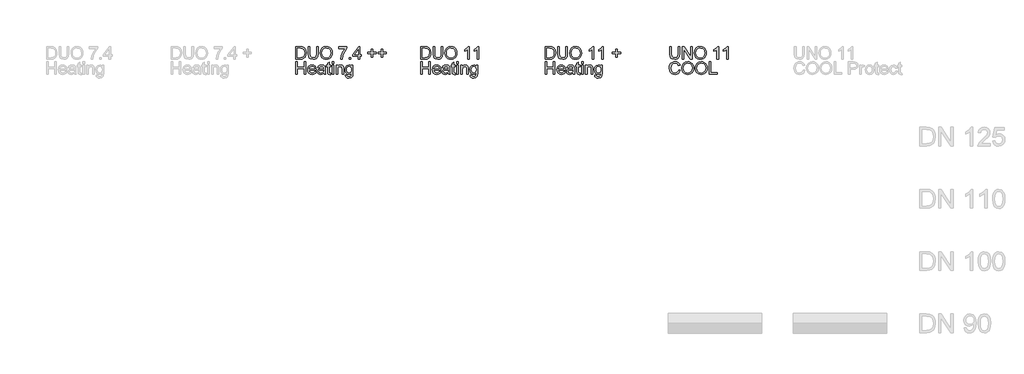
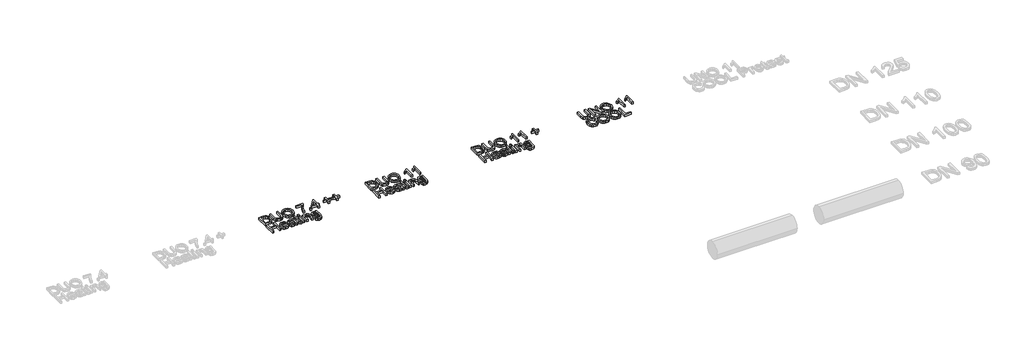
# One storey, part 33 of 44: 4 proxies.
"""IFC4 building model written with IfcOpenShell, lengths in millimetres."""

from ifc_helpers import new_model, si_unit, origin, origin_with_axes, place, context, project, spatial, polyline, outline, extrude, element, save

model = new_model("IFC4")

# Units and contexts
model_context = context("Model", 3, world=origin())
ifc_project = project(units=[si_unit("LENGTHUNIT", "METRE", prefix="MILLI")], contexts=[model_context])

# Site, building, storey
site = spatial("IfcSite", under=ifc_project)
building = spatial("IfcBuilding", under=site)
storey = spatial("IfcBuildingStorey", under=building, Name="REHAU Starting view", Elevation=0.0)

# Proxies
placement = place(None, origin())
element("IfcBuildingElementProxy", 1, Name="100", ObjectType="100", at=placement, inside=storey, context=model_context, shape_type="SweptSolid", body=[
    extrude(outline(polyline([(10010.9874089, 20121.9748178), (10010.9874089, 20222.431128), (10045.6418929, 20222.431128), (10063.5700088, 20220.9841255), (10078.3343395, 20213.7981638), (10090.2291907, 20196.6303374), (10094.1777908, 20172.7425332), (10091.5045149, 20152.4722352), (10084.6373844, 20137.8427946), (10075.4648599, 20128.7315838), (10063.4596442, 20123.6916005), (10047.3096246, 20121.9748178), (10010.9874089, 20121.9748178)]), holes=[polyline([(10023.5444477, 20134.5318566), (10045.7645202, 20134.5318566), (10061.9268025, 20136.3467411), (10071.2464797, 20141.4725636), (10078.8861625, 20153.9437632), (10081.620752, 20172.9387369), (10080.2810484, 20186.6239471), (10076.2619376, 20196.7284393), (10063.2266522, 20207.863001), (10045.4211637, 20209.8740892), (10023.5444477, 20209.8740892), (10023.5444477, 20134.5318566)])]), origin_with_axes(), (0.0, 0.0, 1.0), 20.0),
    extrude(outline(polyline([(10177.3681726, 20222.431128), (10189.9252114, 20222.431128), (10189.9252114, 20164.477451), (10186.5161716, 20140.4547567), (10174.2289129, 20125.9847316), (10163.9650053, 20121.8000739), (10150.9297199, 20120.405188), (10127.9861461, 20125.2612303), (10120.3464634, 20131.2055902), (10115.2574291, 20139.3265853), (10111.4437191, 20164.477451), (10111.4437191, 20222.431128), (10124.0007578, 20222.431128), (10124.0007578, 20164.9189094), (10126.4778299, 20145.7767829), (10134.9881668, 20136.2976902), (10149.7524975, 20132.9622268), (10162.5241341, 20134.6115644), (10171.0160768, 20139.5595772), (10175.7801487, 20149.1980855), (10177.3681726, 20164.9189094), (10177.3681726, 20222.431128)])), origin_with_axes(), (0.0, 0.0, 1.0), 20.0),
    extrude(outline(polyline([(10207.1911397, 20170.8785977), (10210.5388658, 20193.0925389), (10220.5820443, 20209.8986147), (10235.9165921, 20220.4752221), (10255.1384264, 20224.0007578), (10268.3147332, 20222.3452889), (10280.1298766, 20217.3788819), (10289.9400631, 20209.4510249), (10297.1014993, 20198.9112058), (10301.479295, 20186.2683279), (10302.9385603, 20172.0312947), (10301.402653, 20157.6041891), (10296.794931, 20144.7835015), (10289.369846, 20134.2252883), (10279.3818499, 20126.5856055), (10267.667874, 20121.9502924), (10255.06485, 20120.405188), (10241.6862081, 20122.1127736), (10229.8036197, 20127.2355304), (10220.0179586, 20135.3105402), (10212.9300988, 20145.8748848), (10207.1911397, 20170.8785977)]), holes=[polyline([(10219.7481785, 20170.7559704), (10222.2589731, 20155.0412778), (10229.7913569, 20143.0667189), (10241.1129253, 20135.4883498), (10254.9912736, 20132.9622268), (10269.071957, 20135.5128753), (10280.4119195, 20143.1648208), (10287.889121, 20155.5072617), (10290.3815215, 20172.1293965), (10286.1140904, 20192.8534156), (10273.6428907, 20206.575414), (10255.2120028, 20211.4437191), (10241.7046022, 20209.0984714), (10230.2205526, 20202.0627282), (10222.366272, 20189.5455433), (10219.7481785, 20170.7559704)])]), origin_with_axes(), (0.0, 0.0, 1.0), 20.0),
    extrude(outline(polyline([(10354.7363452, 20208.3044594), (10354.7363452, 20220.8614981), (10420.6607988, 20220.8614981), (10420.6607988, 20210.7079551), (10401.9601307, 20183.6931539), (10387.6495211, 20149.2716619), (10382.9896824, 20121.9748178), (10370.4326437, 20121.9748178), (10375.4235761, 20150.3017315), (10389.121049, 20182.3197278), (10408.10376, 20208.3044594), (10354.7363452, 20208.3044594)])), origin_with_axes(), (0.0, 0.0, 1.0), 20.0),
    extrude(outline(polyline([(10437.9267271, 20121.9748178), (10437.9267271, 20134.5318566), (10450.4837658, 20134.5318566), (10450.4837658, 20121.9748178), (10437.9267271, 20121.9748178)])), origin_with_axes(), (0.0, 0.0, 1.0), 20.0),
    extrude(outline(polyline([(10511.6993298, 20121.9748178), (10511.6993298, 20145.5192655), (10466.1800643, 20145.5192655), (10466.1800643, 20158.0763043), (10514.8385895, 20220.8614981), (10524.2563686, 20220.8614981), (10524.2563686, 20158.0763043), (10536.8134074, 20158.0763043), (10536.8134074, 20145.5192655), (10524.2563686, 20145.5192655), (10524.2563686, 20121.9748178), (10511.6993298, 20121.9748178)]), holes=[polyline([(10511.6993298, 20158.0763043), (10511.6993298, 20196.8755921), (10481.6311081, 20158.0763043), (10511.6993298, 20158.0763043)])]), origin_with_axes(), (0.0, 0.0, 1.0), 20.0),
    extrude(outline(polyline([(10615.2948997, 20137.6711163), (10615.2948997, 20164.3548237), (10588.6111923, 20164.3548237), (10588.6111923, 20176.9118625), (10615.2948997, 20176.9118625), (10615.2948997, 20203.5955698), (10627.8519384, 20203.5955698), (10627.8519384, 20176.9118625), (10654.5356458, 20176.9118625), (10654.5356458, 20164.3548237), (10627.8519384, 20164.3548237), (10627.8519384, 20137.6711163), (10615.2948997, 20137.6711163)])), origin_with_axes(), (0.0, 0.0, 1.0), 20.0),
    extrude(outline(polyline([(10696.9156517, 20137.6711163), (10696.9156517, 20164.3548237), (10670.2319443, 20164.3548237), (10670.2319443, 20176.9118625), (10696.9156517, 20176.9118625), (10696.9156517, 20203.5955698), (10709.4726904, 20203.5955698), (10709.4726904, 20176.9118625), (10736.1563978, 20176.9118625), (10736.1563978, 20164.3548237), (10709.4726904, 20164.3548237), (10709.4726904, 20137.6711163), (10696.9156517, 20137.6711163)])), origin_with_axes(), (0.0, 0.0, 1.0), 20.0),
    extrude(outline(polyline([(10010.9874089, 20000.0), (10010.9874089, 20100.4563101), (10023.5444477, 20100.4563101), (10023.5444477, 20059.6459342), (10076.9118625, 20059.6459342), (10076.9118625, 20100.4563101), (10089.4689012, 20100.4563101), (10089.4689012, 20000.0), (10076.9118625, 20000.0), (10076.9118625, 20047.0888954), (10023.5444477, 20047.0888954), (10023.5444477, 20000.0), (10010.9874089, 20000.0)])), origin_with_axes(), (0.0, 0.0, 1.0), 20.0),
    extrude(outline(polyline([(10161.5247213, 20021.9748178), (10173.8365055, 20020.405188), (10169.4004617, 20011.1284304), (10162.321799, 20004.1938547), (10152.7599328, 19999.8712413), (10140.8742787, 19998.4303702), (10126.1406048, 20000.9166393), (10114.803708, 20008.3754468), (10107.5748268, 20020.3224146), (10105.1651997, 20036.2731647), (10107.5993522, 20052.7604095), (10114.9018098, 20065.0905877), (10126.0854225, 20072.7793214), (10140.1630402, 20075.3422326), (10153.8022651, 20072.7854527), (10164.7007692, 20065.1151131), (10171.846877, 20052.8094604), (10174.2289129, 20036.3467411), (10174.1553365, 20032.9622268), (10117.7222385, 20032.9622268), (10119.8958079, 20023.5628418), (10124.9449883, 20016.6527916), (10132.2321175, 20012.4037546), (10141.1195333, 20010.9874089), (10153.4313175, 20013.6116338), (10161.5247213, 20021.9748178)]), holes=[polyline([(10117.7222385, 20045.5192655), (10161.6718741, 20045.5192655), (10156.6441535, 20056.8990819), (10149.3233018, 20061.3136659), (10140.1139892, 20062.7851938), (10124.6506827, 20058.088567), (10119.7854433, 20052.5979283), (10117.7222385, 20045.5192655)])]), origin_with_axes(), (0.0, 0.0, 1.0), 20.0),
    extrude(outline(polyline([(10233.8748471, 20009.4177791), (10221.697953, 20000.9074423), (10208.2457347, 19998.4303702), (10197.7519008, 19999.9202922), (10190.0110505, 20004.3900585), (10185.2377816, 20011.1774813), (10183.646692, 20019.6203731), (10186.0501877, 20029.5531869), (10192.3654953, 20036.7636741), (10201.157875, 20040.8839524), (10212.0226566, 20042.7724133), (10233.8012707, 20047.0888954), (10233.8748471, 20049.8847985), (10230.4167563, 20059.1554248), (10216.5353424, 20062.7851938), (10203.8311508, 20060.3694354), (10197.7733606, 20051.7977849), (10185.2163218, 20053.3674148), (10190.6487126, 20065.6301479), (10201.5870706, 20072.8161096), (10218.1540231, 20075.3422326), (10233.372075, 20073.1104152), (10241.968251, 20067.5063461), (10245.8187492, 20058.9837466), (10246.4318858, 20047.9963376), (10246.4318858, 20032.3736156), (10247.069548, 20010.5582133), (10249.5711455, 20000.0), (10237.0141068, 20000.0), (10233.8748471, 20009.4177791)]), holes=[polyline([(10233.8748471, 20034.5318566), (10213.6168119, 20030.6813584), (10202.8133439, 20028.6457447), (10197.9205134, 20025.3348067), (10196.2037308, 20020.5032899), (10199.9438644, 20013.7097357), (10210.9190106, 20010.9874089), (10223.6232021, 20013.9917785), (10231.8147079, 20021.2635793), (10233.8012707, 20030.975664), (10233.8748471, 20034.5318566)])]), origin_with_axes(), (0.0, 0.0, 1.0), 20.0),
    extrude(outline(polyline([(10290.3815215, 20010.4723741), (10291.9511514, 19999.632118), (10282.5578978, 19998.4303702), (10272.0364727, 20000.5150348), (10266.7880229, 20005.9842138), (10265.267444, 20020.2335097), (10265.267444, 20061.215564), (10255.8496649, 20061.215564), (10255.8496649, 20073.7726028), (10265.267444, 20073.7726028), (10265.267444, 20091.7007187), (10277.8244828, 20099.082884), (10277.8244828, 20073.7726028), (10290.3815215, 20073.7726028), (10290.3815215, 20061.215564), (10277.8244828, 20061.215564), (10277.8244828, 20020.6013917), (10278.4866703, 20014.1266686), (10280.6326487, 20011.8335375), (10284.9123425, 20010.9874089), (10290.3815215, 20010.4723741)])), origin_with_axes(), (0.0, 0.0, 1.0), 20.0),
    extrude(outline(polyline([(10302.9385603, 20087.8992714), (10302.9385603, 20100.4563101), (10315.4955991, 20100.4563101), (10315.4955991, 20087.8992714), (10302.9385603, 20087.8992714)])), origin_with_axes(), (0.0, 0.0, 1.0), 20.0),
    extrude(outline(polyline([(10302.9385603, 20000.0), (10302.9385603, 20073.7726028), (10315.4955991, 20073.7726028), (10315.4955991, 20000.0), (10302.9385603, 20000.0)])), origin_with_axes(), (0.0, 0.0, 1.0), 20.0),
    extrude(outline(polyline([(10334.3311572, 20000.0), (10334.3311572, 20073.7726028), (10346.888196, 20073.7726028), (10346.888196, 20063.4719069), (10356.4899161, 20072.3746512), (10369.5987778, 20075.3422326), (10381.4568408, 20072.9509996), (10389.5502447, 20066.6724803), (10393.3149038, 20057.4386422), (10393.9770914, 20045.2985363), (10393.9770914, 20000.0), (10381.4200526, 20000.0), (10381.4200526, 20043.6062792), (10379.9730501, 20054.7163154), (10374.8594904, 20060.5901646), (10366.2387889, 20062.7851938), (10352.6148924, 20057.8555751), (10348.3198701, 20050.712533), (10346.888196, 20039.1426443), (10346.888196, 20000.0), (10334.3311572, 20000.0)])), origin_with_axes(), (0.0, 0.0, 1.0), 20.0),
    extrude(outline(polyline([(10408.10376, 19993.7214806), (10420.6607988, 19992.1518508), (10424.7320262, 19985.5299749), (10436.9211829, 19982.7340717), (10449.7725273, 19985.8978569), (10455.9038939, 19994.7760757), (10456.7622852, 20009.4177791), (10447.9208546, 20002.3544448), (10437.1419121, 20000.0), (10424.1955316, 20002.7407209), (10414.5416949, 20010.9628835), (10408.5360213, 20023.0171502), (10406.5341301, 20037.2541834), (10410.127111, 20056.7151409), (10420.5259087, 20070.4861903), (10436.5287755, 20075.3422326), (10447.7307822, 20072.5953804), (10456.7622852, 20064.3548237), (10456.7622852, 20073.7726028), (10469.319324, 20073.7726028), (10469.319324, 20010.0799667), (10465.8857587, 19985.6893904), (10455.0087144, 19974.3463622), (10436.6759283, 19970.1770329), (10424.9926092, 19971.6454952), (10415.7924937, 19976.0508821), (10409.8910533, 19983.4054563), (10408.10376, 19993.7214806)]), holes=[polyline([(10419.0911689, 20038.1125747), (10420.4308725, 20026.5948026), (10424.4499833, 20018.6761426), (10430.4924451, 20014.0868147), (10437.9022016, 20012.5570388), (10445.2567758, 20014.0776177), (10451.3298944, 20018.6393544), (10455.4041875, 20026.4568468), (10456.7622852, 20037.7446927), (10455.3643336, 20048.6309341), (10451.1704789, 20056.4698863), (10445.0084555, 20061.2063669), (10437.7059979, 20062.7851938), (10430.5353646, 20061.2308924), (10424.5235597, 20056.5679881), (10420.4492666, 20048.8455319), (10419.0911689, 20038.1125747)])]), origin_with_axes(), (0.0, 0.0, 1.0), 20.0),
])
element("IfcBuildingElementProxy", 2, Name="100", ObjectType="100", at=placement, inside=storey, context=model_context, shape_type="SweptSolid", body=[
    extrude(outline(polyline([(11010.9874089, 20121.9748178), (11010.9874089, 20222.431128), (11045.6418929, 20222.431128), (11063.5700088, 20220.9841255), (11078.3343395, 20213.7981638), (11090.2291907, 20196.6303374), (11094.1777908, 20172.7425332), (11091.5045149, 20152.4722352), (11084.6373844, 20137.8427946), (11075.4648599, 20128.7315838), (11063.4596442, 20123.6916005), (11047.3096246, 20121.9748178), (11010.9874089, 20121.9748178)]), holes=[polyline([(11023.5444477, 20134.5318566), (11045.7645202, 20134.5318566), (11061.9268025, 20136.3467411), (11071.2464797, 20141.4725636), (11078.8861625, 20153.9437632), (11081.620752, 20172.9387369), (11080.2810484, 20186.6239471), (11076.2619376, 20196.7284393), (11063.2266522, 20207.863001), (11045.4211637, 20209.8740892), (11023.5444477, 20209.8740892), (11023.5444477, 20134.5318566)])]), origin_with_axes(), (0.0, 0.0, 1.0), 20.0),
    extrude(outline(polyline([(11177.3681726, 20222.431128), (11189.9252114, 20222.431128), (11189.9252114, 20164.477451), (11186.5161716, 20140.4547567), (11174.2289129, 20125.9847316), (11163.9650053, 20121.8000739), (11150.9297199, 20120.405188), (11127.9861461, 20125.2612303), (11120.3464634, 20131.2055902), (11115.2574291, 20139.3265853), (11111.4437191, 20164.477451), (11111.4437191, 20222.431128), (11124.0007578, 20222.431128), (11124.0007578, 20164.9189094), (11126.4778299, 20145.7767829), (11134.9881668, 20136.2976902), (11149.7524975, 20132.9622268), (11162.5241341, 20134.6115644), (11171.0160768, 20139.5595772), (11175.7801487, 20149.1980855), (11177.3681726, 20164.9189094), (11177.3681726, 20222.431128)])), origin_with_axes(), (0.0, 0.0, 1.0), 20.0),
    extrude(outline(polyline([(11207.1911397, 20170.8785977), (11210.5388658, 20193.0925389), (11220.5820443, 20209.8986147), (11235.9165921, 20220.4752221), (11255.1384264, 20224.0007578), (11268.3147332, 20222.3452889), (11280.1298766, 20217.3788819), (11289.9400631, 20209.4510249), (11297.1014993, 20198.9112058), (11301.479295, 20186.2683279), (11302.9385603, 20172.0312947), (11301.402653, 20157.6041891), (11296.794931, 20144.7835015), (11289.369846, 20134.2252883), (11279.3818499, 20126.5856055), (11267.667874, 20121.9502924), (11255.06485, 20120.405188), (11241.6862081, 20122.1127736), (11229.8036197, 20127.2355304), (11220.0179586, 20135.3105402), (11212.9300988, 20145.8748848), (11207.1911397, 20170.8785977)]), holes=[polyline([(11219.7481785, 20170.7559704), (11222.2589731, 20155.0412778), (11229.7913569, 20143.0667189), (11241.1129253, 20135.4883498), (11254.9912736, 20132.9622268), (11269.071957, 20135.5128753), (11280.4119195, 20143.1648208), (11287.889121, 20155.5072617), (11290.3815215, 20172.1293965), (11286.1140904, 20192.8534156), (11273.6428907, 20206.575414), (11255.2120028, 20211.4437191), (11241.7046022, 20209.0984714), (11230.2205526, 20202.0627282), (11222.366272, 20189.5455433), (11219.7481785, 20170.7559704)])]), origin_with_axes(), (0.0, 0.0, 1.0), 20.0),
    extrude(outline(polyline([(11401.8252406, 20121.9748178), (11389.2682018, 20121.9748178), (11389.2682018, 20200.2601064), (11377.3733507, 20191.7865578), (11364.1541243, 20185.4467247), (11364.1541243, 20197.3170505), (11382.5604868, 20209.0647488), (11393.7318367, 20222.431128), (11401.8252406, 20222.431128), (11401.8252406, 20121.9748178)])), origin_with_axes(), (0.0, 0.0, 1.0), 20.0),
    extrude(outline(polyline([(11478.7371031, 20121.9748178), (11466.1800643, 20121.9748178), (11466.1800643, 20200.2601064), (11454.2852131, 20191.7865578), (11441.0659868, 20185.4467247), (11441.0659868, 20197.3170505), (11459.4723492, 20209.0647488), (11470.6436992, 20222.431128), (11478.7371031, 20222.431128), (11478.7371031, 20121.9748178)])), origin_with_axes(), (0.0, 0.0, 1.0), 20.0),
    extrude(outline(polyline([(11010.9874089, 20000.0), (11010.9874089, 20100.4563101), (11023.5444477, 20100.4563101), (11023.5444477, 20059.6459342), (11076.9118625, 20059.6459342), (11076.9118625, 20100.4563101), (11089.4689012, 20100.4563101), (11089.4689012, 20000.0), (11076.9118625, 20000.0), (11076.9118625, 20047.0888954), (11023.5444477, 20047.0888954), (11023.5444477, 20000.0), (11010.9874089, 20000.0)])), origin_with_axes(), (0.0, 0.0, 1.0), 20.0),
    extrude(outline(polyline([(11161.5247213, 20021.9748178), (11173.8365055, 20020.405188), (11169.4004617, 20011.1284304), (11162.321799, 20004.1938547), (11152.7599328, 19999.8712413), (11140.8742787, 19998.4303702), (11126.1406048, 20000.9166393), (11114.803708, 20008.3754468), (11107.5748268, 20020.3224146), (11105.1651997, 20036.2731647), (11107.5993522, 20052.7604095), (11114.9018098, 20065.0905877), (11126.0854225, 20072.7793214), (11140.1630402, 20075.3422326), (11153.8022651, 20072.7854527), (11164.7007692, 20065.1151131), (11171.846877, 20052.8094604), (11174.2289129, 20036.3467411), (11174.1553365, 20032.9622268), (11117.7222385, 20032.9622268), (11119.8958079, 20023.5628418), (11124.9449883, 20016.6527916), (11132.2321175, 20012.4037546), (11141.1195333, 20010.9874089), (11153.4313175, 20013.6116338), (11161.5247213, 20021.9748178)]), holes=[polyline([(11117.7222385, 20045.5192655), (11161.6718741, 20045.5192655), (11156.6441535, 20056.8990819), (11149.3233018, 20061.3136659), (11140.1139892, 20062.7851938), (11124.6506827, 20058.088567), (11119.7854433, 20052.5979283), (11117.7222385, 20045.5192655)])]), origin_with_axes(), (0.0, 0.0, 1.0), 20.0),
    extrude(outline(polyline([(11233.8748471, 20009.4177791), (11221.697953, 20000.9074423), (11208.2457347, 19998.4303702), (11197.7519008, 19999.9202922), (11190.0110505, 20004.3900585), (11185.2377816, 20011.1774813), (11183.646692, 20019.6203731), (11186.0501877, 20029.5531869), (11192.3654953, 20036.7636741), (11201.157875, 20040.8839524), (11212.0226566, 20042.7724133), (11233.8012707, 20047.0888954), (11233.8748471, 20049.8847985), (11230.4167563, 20059.1554248), (11216.5353424, 20062.7851938), (11203.8311508, 20060.3694354), (11197.7733606, 20051.7977849), (11185.2163218, 20053.3674148), (11190.6487126, 20065.6301479), (11201.5870706, 20072.8161096), (11218.1540231, 20075.3422326), (11233.372075, 20073.1104152), (11241.968251, 20067.5063461), (11245.8187492, 20058.9837466), (11246.4318858, 20047.9963376), (11246.4318858, 20032.3736156), (11247.069548, 20010.5582133), (11249.5711455, 20000.0), (11237.0141068, 20000.0), (11233.8748471, 20009.4177791)]), holes=[polyline([(11233.8748471, 20034.5318566), (11213.6168119, 20030.6813584), (11202.8133439, 20028.6457447), (11197.9205134, 20025.3348067), (11196.2037308, 20020.5032899), (11199.9438644, 20013.7097357), (11210.9190106, 20010.9874089), (11223.6232021, 20013.9917785), (11231.8147079, 20021.2635793), (11233.8012707, 20030.975664), (11233.8748471, 20034.5318566)])]), origin_with_axes(), (0.0, 0.0, 1.0), 20.0),
    extrude(outline(polyline([(11290.3815215, 20010.4723741), (11291.9511514, 19999.632118), (11282.5578978, 19998.4303702), (11272.0364727, 20000.5150348), (11266.7880229, 20005.9842138), (11265.267444, 20020.2335097), (11265.267444, 20061.215564), (11255.8496649, 20061.215564), (11255.8496649, 20073.7726028), (11265.267444, 20073.7726028), (11265.267444, 20091.7007187), (11277.8244828, 20099.082884), (11277.8244828, 20073.7726028), (11290.3815215, 20073.7726028), (11290.3815215, 20061.215564), (11277.8244828, 20061.215564), (11277.8244828, 20020.6013917), (11278.4866703, 20014.1266686), (11280.6326487, 20011.8335375), (11284.9123425, 20010.9874089), (11290.3815215, 20010.4723741)])), origin_with_axes(), (0.0, 0.0, 1.0), 20.0),
    extrude(outline(polyline([(11302.9385603, 20087.8992714), (11302.9385603, 20100.4563101), (11315.4955991, 20100.4563101), (11315.4955991, 20087.8992714), (11302.9385603, 20087.8992714)])), origin_with_axes(), (0.0, 0.0, 1.0), 20.0),
    extrude(outline(polyline([(11302.9385603, 20000.0), (11302.9385603, 20073.7726028), (11315.4955991, 20073.7726028), (11315.4955991, 20000.0), (11302.9385603, 20000.0)])), origin_with_axes(), (0.0, 0.0, 1.0), 20.0),
    extrude(outline(polyline([(11334.3311572, 20000.0), (11334.3311572, 20073.7726028), (11346.888196, 20073.7726028), (11346.888196, 20063.4719069), (11356.4899161, 20072.3746512), (11369.5987778, 20075.3422326), (11381.4568408, 20072.9509996), (11389.5502447, 20066.6724803), (11393.3149038, 20057.4386422), (11393.9770914, 20045.2985363), (11393.9770914, 20000.0), (11381.4200526, 20000.0), (11381.4200526, 20043.6062792), (11379.9730501, 20054.7163154), (11374.8594904, 20060.5901646), (11366.2387889, 20062.7851938), (11352.6148924, 20057.8555751), (11348.3198701, 20050.712533), (11346.888196, 20039.1426443), (11346.888196, 20000.0), (11334.3311572, 20000.0)])), origin_with_axes(), (0.0, 0.0, 1.0), 20.0),
    extrude(outline(polyline([(11408.10376, 19993.7214806), (11420.6607988, 19992.1518508), (11424.7320262, 19985.5299749), (11436.9211829, 19982.7340717), (11449.7725273, 19985.8978569), (11455.9038939, 19994.7760757), (11456.7622852, 20009.4177791), (11447.9208546, 20002.3544448), (11437.1419121, 20000.0), (11424.1955316, 20002.7407209), (11414.5416949, 20010.9628835), (11408.5360213, 20023.0171502), (11406.5341301, 20037.2541834), (11410.127111, 20056.7151409), (11420.5259087, 20070.4861903), (11436.5287755, 20075.3422326), (11447.7307822, 20072.5953804), (11456.7622852, 20064.3548237), (11456.7622852, 20073.7726028), (11469.319324, 20073.7726028), (11469.319324, 20010.0799667), (11465.8857587, 19985.6893904), (11455.0087144, 19974.3463622), (11436.6759283, 19970.1770329), (11424.9926092, 19971.6454952), (11415.7924937, 19976.0508821), (11409.8910533, 19983.4054563), (11408.10376, 19993.7214806)]), holes=[polyline([(11419.0911689, 20038.1125747), (11420.4308725, 20026.5948026), (11424.4499833, 20018.6761426), (11430.4924451, 20014.0868147), (11437.9022016, 20012.5570388), (11445.2567758, 20014.0776177), (11451.3298944, 20018.6393544), (11455.4041875, 20026.4568468), (11456.7622852, 20037.7446927), (11455.3643336, 20048.6309341), (11451.1704789, 20056.4698863), (11445.0084555, 20061.2063669), (11437.7059979, 20062.7851938), (11430.5353646, 20061.2308924), (11424.5235597, 20056.5679881), (11420.4492666, 20048.8455319), (11419.0911689, 20038.1125747)])]), origin_with_axes(), (0.0, 0.0, 1.0), 20.0),
])
element("IfcBuildingElementProxy", 3, Name="100", ObjectType="100", at=placement, inside=storey, context=model_context, shape_type="SweptSolid", body=[
    extrude(outline(polyline([(12010.9874089, 20121.9748178), (12010.9874089, 20222.431128), (12045.6418929, 20222.431128), (12063.5700088, 20220.9841255), (12078.3343395, 20213.7981638), (12090.2291907, 20196.6303374), (12094.1777908, 20172.7425332), (12091.5045149, 20152.4722352), (12084.6373844, 20137.8427946), (12075.4648599, 20128.7315838), (12063.4596442, 20123.6916005), (12047.3096246, 20121.9748178), (12010.9874089, 20121.9748178)]), holes=[polyline([(12023.5444477, 20134.5318566), (12045.7645202, 20134.5318566), (12061.9268025, 20136.3467411), (12071.2464797, 20141.4725636), (12078.8861625, 20153.9437632), (12081.620752, 20172.9387369), (12080.2810484, 20186.6239471), (12076.2619376, 20196.7284393), (12063.2266522, 20207.863001), (12045.4211637, 20209.8740892), (12023.5444477, 20209.8740892), (12023.5444477, 20134.5318566)])]), origin_with_axes(), (0.0, 0.0, 1.0), 20.0),
    extrude(outline(polyline([(12177.3681726, 20222.431128), (12189.9252114, 20222.431128), (12189.9252114, 20164.477451), (12186.5161716, 20140.4547567), (12174.2289129, 20125.9847316), (12163.9650053, 20121.8000739), (12150.9297199, 20120.405188), (12127.9861461, 20125.2612303), (12120.3464634, 20131.2055902), (12115.2574291, 20139.3265853), (12111.4437191, 20164.477451), (12111.4437191, 20222.431128), (12124.0007578, 20222.431128), (12124.0007578, 20164.9189094), (12126.4778299, 20145.7767829), (12134.9881668, 20136.2976902), (12149.7524975, 20132.9622268), (12162.5241341, 20134.6115644), (12171.0160768, 20139.5595772), (12175.7801487, 20149.1980855), (12177.3681726, 20164.9189094), (12177.3681726, 20222.431128)])), origin_with_axes(), (0.0, 0.0, 1.0), 20.0),
    extrude(outline(polyline([(12207.1911397, 20170.8785977), (12210.5388658, 20193.0925389), (12220.5820443, 20209.8986147), (12235.9165921, 20220.4752221), (12255.1384264, 20224.0007578), (12268.3147332, 20222.3452889), (12280.1298766, 20217.3788819), (12289.9400631, 20209.4510249), (12297.1014993, 20198.9112058), (12301.479295, 20186.2683279), (12302.9385603, 20172.0312947), (12301.402653, 20157.6041891), (12296.794931, 20144.7835015), (12289.369846, 20134.2252883), (12279.3818499, 20126.5856055), (12267.667874, 20121.9502924), (12255.06485, 20120.405188), (12241.6862081, 20122.1127736), (12229.8036197, 20127.2355304), (12220.0179586, 20135.3105402), (12212.9300988, 20145.8748848), (12207.1911397, 20170.8785977)]), holes=[polyline([(12219.7481785, 20170.7559704), (12222.2589731, 20155.0412778), (12229.7913569, 20143.0667189), (12241.1129253, 20135.4883498), (12254.9912736, 20132.9622268), (12269.071957, 20135.5128753), (12280.4119195, 20143.1648208), (12287.889121, 20155.5072617), (12290.3815215, 20172.1293965), (12286.1140904, 20192.8534156), (12273.6428907, 20206.575414), (12255.2120028, 20211.4437191), (12241.7046022, 20209.0984714), (12230.2205526, 20202.0627282), (12222.366272, 20189.5455433), (12219.7481785, 20170.7559704)])]), origin_with_axes(), (0.0, 0.0, 1.0), 20.0),
    extrude(outline(polyline([(12401.8252406, 20121.9748178), (12389.2682018, 20121.9748178), (12389.2682018, 20200.2601064), (12377.3733507, 20191.7865578), (12364.1541243, 20185.4467247), (12364.1541243, 20197.3170505), (12382.5604868, 20209.0647488), (12393.7318367, 20222.431128), (12401.8252406, 20222.431128), (12401.8252406, 20121.9748178)])), origin_with_axes(), (0.0, 0.0, 1.0), 20.0),
    extrude(outline(polyline([(12478.7371031, 20121.9748178), (12466.1800643, 20121.9748178), (12466.1800643, 20200.2601064), (12454.2852131, 20191.7865578), (12441.0659868, 20185.4467247), (12441.0659868, 20197.3170505), (12459.4723492, 20209.0647488), (12470.6436992, 20222.431128), (12478.7371031, 20222.431128), (12478.7371031, 20121.9748178)])), origin_with_axes(), (0.0, 0.0, 1.0), 20.0),
    extrude(outline(polyline([(12576.0541535, 20137.6711163), (12576.0541535, 20164.3548237), (12549.3704461, 20164.3548237), (12549.3704461, 20176.9118625), (12576.0541535, 20176.9118625), (12576.0541535, 20203.5955698), (12588.6111923, 20203.5955698), (12588.6111923, 20176.9118625), (12615.2948997, 20176.9118625), (12615.2948997, 20164.3548237), (12588.6111923, 20164.3548237), (12588.6111923, 20137.6711163), (12576.0541535, 20137.6711163)])), origin_with_axes(), (0.0, 0.0, 1.0), 20.0),
    extrude(outline(polyline([(12010.9874089, 20000.0), (12010.9874089, 20100.4563101), (12023.5444477, 20100.4563101), (12023.5444477, 20059.6459342), (12076.9118625, 20059.6459342), (12076.9118625, 20100.4563101), (12089.4689012, 20100.4563101), (12089.4689012, 20000.0), (12076.9118625, 20000.0), (12076.9118625, 20047.0888954), (12023.5444477, 20047.0888954), (12023.5444477, 20000.0), (12010.9874089, 20000.0)])), origin_with_axes(), (0.0, 0.0, 1.0), 20.0),
    extrude(outline(polyline([(12161.5247213, 20021.9748178), (12173.8365055, 20020.405188), (12169.4004617, 20011.1284304), (12162.321799, 20004.1938547), (12152.7599328, 19999.8712413), (12140.8742787, 19998.4303702), (12126.1406048, 20000.9166393), (12114.803708, 20008.3754468), (12107.5748268, 20020.3224146), (12105.1651997, 20036.2731647), (12107.5993522, 20052.7604095), (12114.9018098, 20065.0905877), (12126.0854225, 20072.7793214), (12140.1630402, 20075.3422326), (12153.8022651, 20072.7854527), (12164.7007692, 20065.1151131), (12171.846877, 20052.8094604), (12174.2289129, 20036.3467411), (12174.1553365, 20032.9622268), (12117.7222385, 20032.9622268), (12119.8958079, 20023.5628418), (12124.9449883, 20016.6527916), (12132.2321175, 20012.4037546), (12141.1195333, 20010.9874089), (12153.4313175, 20013.6116338), (12161.5247213, 20021.9748178)]), holes=[polyline([(12117.7222385, 20045.5192655), (12161.6718741, 20045.5192655), (12156.6441535, 20056.8990819), (12149.3233018, 20061.3136659), (12140.1139892, 20062.7851938), (12124.6506827, 20058.088567), (12119.7854433, 20052.5979283), (12117.7222385, 20045.5192655)])]), origin_with_axes(), (0.0, 0.0, 1.0), 20.0),
    extrude(outline(polyline([(12233.8748471, 20009.4177791), (12221.697953, 20000.9074423), (12208.2457347, 19998.4303702), (12197.7519008, 19999.9202922), (12190.0110505, 20004.3900585), (12185.2377816, 20011.1774813), (12183.646692, 20019.6203731), (12186.0501877, 20029.5531869), (12192.3654953, 20036.7636741), (12201.157875, 20040.8839524), (12212.0226566, 20042.7724133), (12233.8012707, 20047.0888954), (12233.8748471, 20049.8847985), (12230.4167563, 20059.1554248), (12216.5353424, 20062.7851938), (12203.8311508, 20060.3694354), (12197.7733606, 20051.7977849), (12185.2163218, 20053.3674148), (12190.6487126, 20065.6301479), (12201.5870706, 20072.8161096), (12218.1540231, 20075.3422326), (12233.372075, 20073.1104152), (12241.968251, 20067.5063461), (12245.8187492, 20058.9837466), (12246.4318858, 20047.9963376), (12246.4318858, 20032.3736156), (12247.069548, 20010.5582133), (12249.5711455, 20000.0), (12237.0141068, 20000.0), (12233.8748471, 20009.4177791)]), holes=[polyline([(12233.8748471, 20034.5318566), (12213.6168119, 20030.6813584), (12202.8133439, 20028.6457447), (12197.9205134, 20025.3348067), (12196.2037308, 20020.5032899), (12199.9438644, 20013.7097357), (12210.9190106, 20010.9874089), (12223.6232021, 20013.9917785), (12231.8147079, 20021.2635793), (12233.8012707, 20030.975664), (12233.8748471, 20034.5318566)])]), origin_with_axes(), (0.0, 0.0, 1.0), 20.0),
    extrude(outline(polyline([(12290.3815215, 20010.4723741), (12291.9511514, 19999.632118), (12282.5578978, 19998.4303702), (12272.0364727, 20000.5150348), (12266.7880229, 20005.9842138), (12265.267444, 20020.2335097), (12265.267444, 20061.215564), (12255.8496649, 20061.215564), (12255.8496649, 20073.7726028), (12265.267444, 20073.7726028), (12265.267444, 20091.7007187), (12277.8244828, 20099.082884), (12277.8244828, 20073.7726028), (12290.3815215, 20073.7726028), (12290.3815215, 20061.215564), (12277.8244828, 20061.215564), (12277.8244828, 20020.6013917), (12278.4866703, 20014.1266686), (12280.6326487, 20011.8335375), (12284.9123425, 20010.9874089), (12290.3815215, 20010.4723741)])), origin_with_axes(), (0.0, 0.0, 1.0), 20.0),
    extrude(outline(polyline([(12302.9385603, 20087.8992714), (12302.9385603, 20100.4563101), (12315.4955991, 20100.4563101), (12315.4955991, 20087.8992714), (12302.9385603, 20087.8992714)])), origin_with_axes(), (0.0, 0.0, 1.0), 20.0),
    extrude(outline(polyline([(12302.9385603, 20000.0), (12302.9385603, 20073.7726028), (12315.4955991, 20073.7726028), (12315.4955991, 20000.0), (12302.9385603, 20000.0)])), origin_with_axes(), (0.0, 0.0, 1.0), 20.0),
    extrude(outline(polyline([(12334.3311572, 20000.0), (12334.3311572, 20073.7726028), (12346.888196, 20073.7726028), (12346.888196, 20063.4719069), (12356.4899161, 20072.3746512), (12369.5987778, 20075.3422326), (12381.4568408, 20072.9509996), (12389.5502447, 20066.6724803), (12393.3149038, 20057.4386422), (12393.9770914, 20045.2985363), (12393.9770914, 20000.0), (12381.4200526, 20000.0), (12381.4200526, 20043.6062792), (12379.9730501, 20054.7163154), (12374.8594904, 20060.5901646), (12366.2387889, 20062.7851938), (12352.6148924, 20057.8555751), (12348.3198701, 20050.712533), (12346.888196, 20039.1426443), (12346.888196, 20000.0), (12334.3311572, 20000.0)])), origin_with_axes(), (0.0, 0.0, 1.0), 20.0),
    extrude(outline(polyline([(12408.10376, 19993.7214806), (12420.6607988, 19992.1518508), (12424.7320262, 19985.5299749), (12436.9211829, 19982.7340717), (12449.7725273, 19985.8978569), (12455.9038939, 19994.7760757), (12456.7622852, 20009.4177791), (12447.9208546, 20002.3544448), (12437.1419121, 20000.0), (12424.1955316, 20002.7407209), (12414.5416949, 20010.9628835), (12408.5360213, 20023.0171502), (12406.5341301, 20037.2541834), (12410.127111, 20056.7151409), (12420.5259087, 20070.4861903), (12436.5287755, 20075.3422326), (12447.7307822, 20072.5953804), (12456.7622852, 20064.3548237), (12456.7622852, 20073.7726028), (12469.319324, 20073.7726028), (12469.319324, 20010.0799667), (12465.8857587, 19985.6893904), (12455.0087144, 19974.3463622), (12436.6759283, 19970.1770329), (12424.9926092, 19971.6454952), (12415.7924937, 19976.0508821), (12409.8910533, 19983.4054563), (12408.10376, 19993.7214806)]), holes=[polyline([(12419.0911689, 20038.1125747), (12420.4308725, 20026.5948026), (12424.4499833, 20018.6761426), (12430.4924451, 20014.0868147), (12437.9022016, 20012.5570388), (12445.2567758, 20014.0776177), (12451.3298944, 20018.6393544), (12455.4041875, 20026.4568468), (12456.7622852, 20037.7446927), (12455.3643336, 20048.6309341), (12451.1704789, 20056.4698863), (12445.0084555, 20061.2063669), (12437.7059979, 20062.7851938), (12430.5353646, 20061.2308924), (12424.5235597, 20056.5679881), (12420.4492666, 20048.8455319), (12419.0911689, 20038.1125747)])]), origin_with_axes(), (0.0, 0.0, 1.0), 20.0),
])
element("IfcBuildingElementProxy", 4, Name="100", ObjectType="100", at=placement, inside=storey, context=model_context, shape_type="SweptSolid", body=[
    extrude(outline(polyline([(13076.9118625, 20222.431128), (13089.4689012, 20222.431128), (13089.4689012, 20164.477451), (13086.0598614, 20140.4547567), (13073.7726028, 20125.9847316), (13063.5086951, 20121.8000739), (13050.4734097, 20120.405188), (13027.529836, 20125.2612303), (13019.8901532, 20131.2055902), (13014.8011189, 20139.3265853), (13010.9874089, 20164.477451), (13010.9874089, 20222.431128), (13023.5444477, 20222.431128), (13023.5444477, 20164.9189094), (13026.0215198, 20145.7767829), (13034.5318566, 20136.2976902), (13049.2961874, 20132.9622268), (13062.067824, 20134.6115644), (13070.5597667, 20139.5595772), (13075.3238385, 20149.1980855), (13076.9118625, 20164.9189094), (13076.9118625, 20222.431128)])), origin_with_axes(), (0.0, 0.0, 1.0), 20.0),
    extrude(outline(polyline([(13111.4437191, 20121.9748178), (13111.4437191, 20222.431128), (13124.8836746, 20222.431128), (13177.3681726, 20142.8459897), (13177.3681726, 20222.431128), (13189.9252114, 20222.431128), (13189.9252114, 20121.9748178), (13176.4852558, 20121.9748178), (13124.0007578, 20201.5844816), (13124.0007578, 20121.9748178), (13111.4437191, 20121.9748178)])), origin_with_axes(), (0.0, 0.0, 1.0), 20.0),
    extrude(outline(polyline([(13207.1911397, 20170.8785977), (13210.5388658, 20193.0925389), (13220.5820443, 20209.8986147), (13235.9165921, 20220.4752221), (13255.1384264, 20224.0007578), (13268.3147332, 20222.3452889), (13280.1298766, 20217.3788819), (13289.9400631, 20209.4510249), (13297.1014993, 20198.9112058), (13301.479295, 20186.2683279), (13302.9385603, 20172.0312947), (13301.402653, 20157.6041891), (13296.794931, 20144.7835015), (13289.369846, 20134.2252883), (13279.3818499, 20126.5856055), (13267.667874, 20121.9502924), (13255.06485, 20120.405188), (13241.6862081, 20122.1127736), (13229.8036197, 20127.2355304), (13220.0179586, 20135.3105402), (13212.9300988, 20145.8748848), (13207.1911397, 20170.8785977)]), holes=[polyline([(13219.7481785, 20170.7559704), (13222.2589731, 20155.0412778), (13229.7913569, 20143.0667189), (13241.1129253, 20135.4883498), (13254.9912736, 20132.9622268), (13269.071957, 20135.5128753), (13280.4119195, 20143.1648208), (13287.889121, 20155.5072617), (13290.3815215, 20172.1293965), (13286.1140904, 20192.8534156), (13273.6428907, 20206.575414), (13255.2120028, 20211.4437191), (13241.7046022, 20209.0984714), (13230.2205526, 20202.0627282), (13222.366272, 20189.5455433), (13219.7481785, 20170.7559704)])]), origin_with_axes(), (0.0, 0.0, 1.0), 20.0),
    extrude(outline(polyline([(13401.8252406, 20121.9748178), (13389.2682018, 20121.9748178), (13389.2682018, 20200.2601064), (13377.3733507, 20191.7865578), (13364.1541243, 20185.4467247), (13364.1541243, 20197.3170505), (13382.5604868, 20209.0647488), (13393.7318367, 20222.431128), (13401.8252406, 20222.431128), (13401.8252406, 20121.9748178)])), origin_with_axes(), (0.0, 0.0, 1.0), 20.0),
    extrude(outline(polyline([(13478.7371031, 20121.9748178), (13466.1800643, 20121.9748178), (13466.1800643, 20200.2601064), (13454.2852131, 20191.7865578), (13441.0659868, 20185.4467247), (13441.0659868, 20197.3170505), (13459.4723492, 20209.0647488), (13470.6436992, 20222.431128), (13478.7371031, 20222.431128), (13478.7371031, 20121.9748178)])), origin_with_axes(), (0.0, 0.0, 1.0), 20.0),
    extrude(outline(polyline([(13081.620752, 20035.709079), (13094.1777908, 20032.4717174), (13088.3836493, 20017.8392111), (13079.2908327, 20007.1491734), (13067.3469306, 20000.610071), (13052.9995328, 19998.4303702), (13038.4344714, 20000.0797078), (13026.8676484, 20005.0277206), (13018.0016923, 20013.1027304), (13011.5392319, 20024.1330589), (13006.2785194, 20050.9884445), (13007.7653758, 20065.6362793), (13012.225945, 20078.2852886), (13019.427235, 20088.5338678), (13029.136254, 20095.9804125), (13040.6509605, 20100.5145581), (13053.2693129, 20102.02594), (13067.0372966, 20100.0700341), (13078.4201786, 20094.2023162), (13087.0623398, 20084.7845372), (13092.6081609, 20072.1784475), (13080.0511222, 20069.1863406), (13069.7504263, 20084.6251216), (13052.7788036, 20089.4689012), (13033.133905, 20084.0978241), (13022.0361315, 20069.6768499), (13018.8355582, 20051.01297), (13022.6247427, 20029.3815087), (13034.421492, 20015.5614084), (13051.748734, 20010.9874089), (13062.2303052, 20012.544776), (13070.9644369, 20017.2168774), (13077.5587216, 20024.954662), (13081.620752, 20035.709079)])), origin_with_axes(), (0.0, 0.0, 1.0), 20.0),
    extrude(outline(polyline([(13106.7348295, 20048.9037799), (13110.0825557, 20071.117721), (13120.1257342, 20087.9237968), (13135.460282, 20098.5004042), (13154.6821162, 20102.02594), (13167.858423, 20100.370471), (13179.6735664, 20095.4040641), (13189.483753, 20087.4762071), (13196.6451892, 20076.9363879), (13201.0229849, 20064.29351), (13202.4822501, 20050.0564768), (13200.9463428, 20035.6293712), (13196.3386208, 20022.8086837), (13188.9135359, 20012.2504704), (13178.9255397, 20004.6107877), (13167.2115639, 19999.9754745), (13154.6085398, 19998.4303702), (13141.2298979, 20000.1379557), (13129.3473095, 20005.2607125), (13119.5616484, 20013.3357223), (13112.4737887, 20023.900067), (13106.7348295, 20048.9037799)]), holes=[polyline([(13119.2918683, 20048.7811526), (13121.8026629, 20033.06646), (13129.3350468, 20021.0919011), (13140.6566152, 20013.513532), (13154.5349634, 20010.9874089), (13168.6156468, 20013.5380574), (13179.9556093, 20021.1900029), (13187.4328109, 20033.5324439), (13189.9252114, 20050.1545787), (13185.6577802, 20070.8785977), (13173.1865806, 20084.6005962), (13154.7556926, 20089.4689012), (13141.248292, 20087.1236535), (13129.7642424, 20080.0879103), (13121.9099618, 20067.5707255), (13119.2918683, 20048.7811526)])]), origin_with_axes(), (0.0, 0.0, 1.0), 20.0),
    extrude(outline(polyline([(13215.0392889, 20048.9037799), (13218.3870151, 20071.117721), (13228.4301935, 20087.9237968), (13243.7647414, 20098.5004042), (13262.9865756, 20102.02594), (13276.1628824, 20100.370471), (13287.9780258, 20095.4040641), (13297.7882124, 20087.4762071), (13304.9496485, 20076.9363879), (13309.3274443, 20064.29351), (13310.7867095, 20050.0564768), (13309.2508022, 20035.6293712), (13304.6430802, 20022.8086837), (13297.2179953, 20012.2504704), (13287.2299991, 20004.6107877), (13275.5160232, 19999.9754745), (13262.9129992, 19998.4303702), (13249.5343573, 20000.1379557), (13237.6517689, 20005.2607125), (13227.8661078, 20013.3357223), (13220.778248, 20023.900067), (13215.0392889, 20048.9037799)]), holes=[polyline([(13227.5963277, 20048.7811526), (13230.1071223, 20033.06646), (13237.6395062, 20021.0919011), (13248.9610746, 20013.513532), (13262.8394228, 20010.9874089), (13276.9201062, 20013.5380574), (13288.2600687, 20021.1900029), (13295.7372702, 20033.5324439), (13298.2296708, 20050.1545787), (13293.9622396, 20070.8785977), (13281.49104, 20084.6005962), (13263.060152, 20089.4689012), (13249.5527514, 20087.1236535), (13238.0687018, 20080.0879103), (13230.2144212, 20067.5707255), (13227.5963277, 20048.7811526)])]), origin_with_axes(), (0.0, 0.0, 1.0), 20.0),
    extrude(outline(polyline([(13328.0526378, 20000.0), (13328.0526378, 20100.4563101), (13340.6096766, 20100.4563101), (13340.6096766, 20012.5570388), (13390.8378317, 20012.5570388), (13390.8378317, 20000.0), (13328.0526378, 20000.0)])), origin_with_axes(), (0.0, 0.0, 1.0), 20.0),
])

save(model, "model.ifc")
